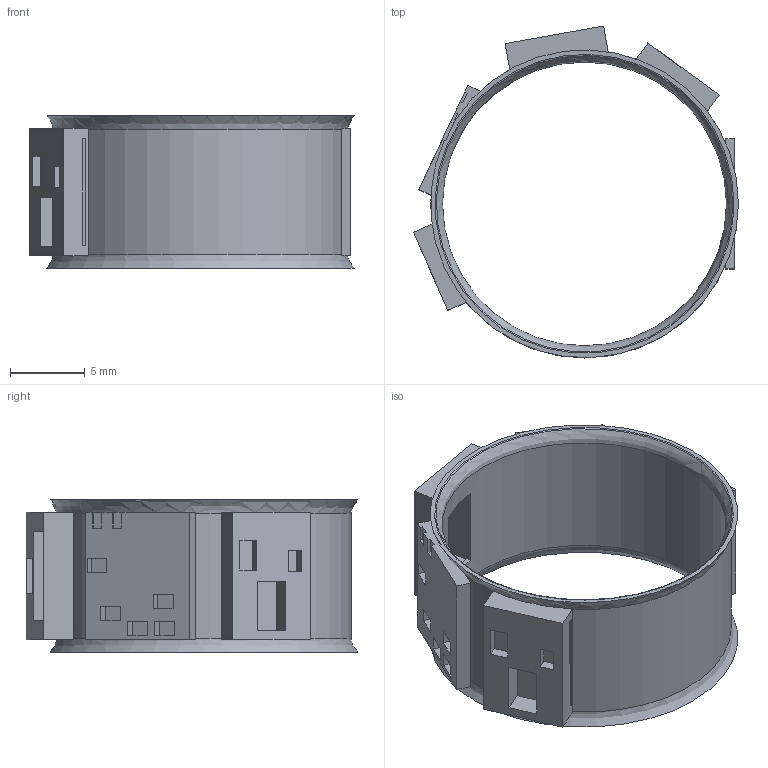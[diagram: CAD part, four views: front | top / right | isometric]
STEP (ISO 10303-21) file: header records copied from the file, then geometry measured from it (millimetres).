
FILE_DESCRIPTION(('FreeCAD Model'),'2;1');
FILE_NAME('Open CASCADE Shape Model','2026-10-23T21:15:57',('FreeCAD'),( 'FreeCAD'),'Open CASCADE STEP processor 7.8','FreeCAD','Unknown');
FILE_SCHEMA(('AUTOMOTIVE_DESIGN { 1 0 10303 214 1 1 1 1 }'));
Length unit declared in the file: millimetre
Products named in the file (1): Open CASCADE STEP translator 7.8 2
Bounding box: 21.74 x 22.2 x 10.2 mm (x, y, z)
Volume: 464.7 mm3; surface area: 1716 mm2
Topology: 1 solids, 1 shells, 142 faces, 379 edges, 252 vertices
Faces by surface type: plane 129, cylinder 7, revolution 4, bspline 2
Full cylindrical faces by diameter (mm): 19 x1
Entity records: 4657 total; most frequent: CARTESIAN_POINT 1163, ORIENTED_EDGE 758, DIRECTION 635, EDGE_CURVE 379, LINE 311, VECTOR 311, VERTEX_POINT 252, FACE_BOUND 161
